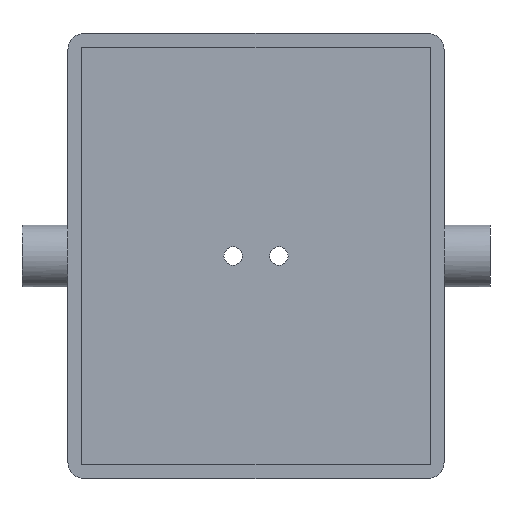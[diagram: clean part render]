
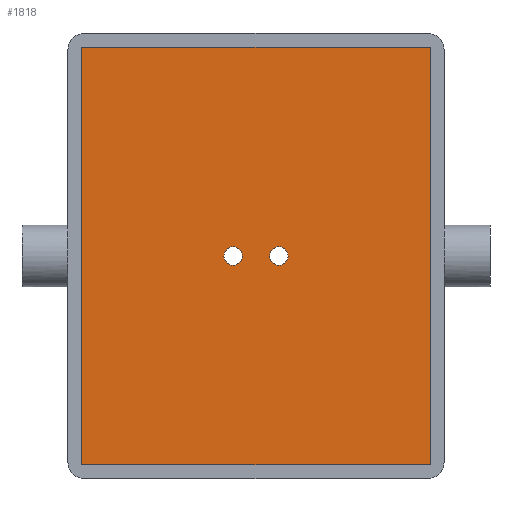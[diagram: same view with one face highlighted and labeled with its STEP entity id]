
A CAD part, top view. The second image highlights one B-rep face of the part: STEP entity #1818.
In plain terms, the highlighted planar face has unit normal (0, 0, 1).
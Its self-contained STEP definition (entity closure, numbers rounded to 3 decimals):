
#732 = PLANE('',#733);
#733 = AXIS2_PLACEMENT_3D('',#734,#735,#736);
#734 = CARTESIAN_POINT('',(-15.2,131.,13.7));
#735 = DIRECTION('',(-0.,1.,0.));
#736 = DIRECTION('',(0.,0.,1.));
#758 = PLANE('',#759);
#759 = AXIS2_PLACEMENT_3D('',#760,#761,#762);
#760 = CARTESIAN_POINT('',(-15.2,131.,13.7));
#761 = DIRECTION('',(1.,0.,-0.));
#762 = DIRECTION('',(0.,0.,1.));
#784 = PLANE('',#785);
#785 = AXIS2_PLACEMENT_3D('',#786,#787,#788);
#786 = CARTESIAN_POINT('',(-15.2,167.4,13.7));
#787 = DIRECTION('',(-0.,1.,0.));
#788 = DIRECTION('',(0.,0.,1.));
#808 = PLANE('',#809);
#809 = AXIS2_PLACEMENT_3D('',#810,#811,#812);
#810 = CARTESIAN_POINT('',(15.2,131.,13.7));
#811 = DIRECTION('',(1.,0.,-0.));
#812 = DIRECTION('',(0.,0.,1.));
#1085 = CYLINDRICAL_SURFACE('',#1086,0.8);
#1086 = AXIS2_PLACEMENT_3D('',#1087,#1088,#1089);
#1087 = CARTESIAN_POINT('',(-2.,149.2,12.5));
#1088 = DIRECTION('',(0.,0.,1.));
#1089 = DIRECTION('',(1.,0.,-0.));
#1116 = CYLINDRICAL_SURFACE('',#1117,0.8);
#1117 = AXIS2_PLACEMENT_3D('',#1118,#1119,#1120);
#1118 = CARTESIAN_POINT('',(2.,149.2,12.5));
#1119 = DIRECTION('',(0.,0.,1.));
#1120 = DIRECTION('',(1.,0.,-0.));
#1433 = VERTEX_POINT('',#1434);
#1434 = CARTESIAN_POINT('',(15.2,131.,13.7));
#1455 = EDGE_CURVE('',#1456,#1433,#1458,.T.);
#1456 = VERTEX_POINT('',#1457);
#1457 = CARTESIAN_POINT('',(-15.2,131.,13.7));
#1458 = SURFACE_CURVE('',#1459,(#1463,#1470),.PCURVE_S1.);
#1459 = LINE('',#1460,#1461);
#1460 = CARTESIAN_POINT('',(-15.2,131.,13.7));
#1461 = VECTOR('',#1462,1.);
#1462 = DIRECTION('',(1.,0.,-0.));
#1463 = PCURVE('',#732,#1464);
#1464 = DEFINITIONAL_REPRESENTATION('',(#1465),#1469);
#1465 = LINE('',#1466,#1467);
#1466 = CARTESIAN_POINT('',(0.,0.));
#1467 = VECTOR('',#1468,1.);
#1468 = DIRECTION('',(0.,1.));
#1469 = ( GEOMETRIC_REPRESENTATION_CONTEXT(2) 
PARAMETRIC_REPRESENTATION_CONTEXT() REPRESENTATION_CONTEXT('2D SPACE',''
  ) );
#1470 = PCURVE('',#1471,#1476);
#1471 = PLANE('',#1472);
#1472 = AXIS2_PLACEMENT_3D('',#1473,#1474,#1475);
#1473 = CARTESIAN_POINT('',(-15.2,131.,13.7));
#1474 = DIRECTION('',(0.,0.,1.));
#1475 = DIRECTION('',(1.,0.,-0.));
#1476 = DEFINITIONAL_REPRESENTATION('',(#1477),#1481);
#1477 = LINE('',#1478,#1479);
#1478 = CARTESIAN_POINT('',(0.,0.));
#1479 = VECTOR('',#1480,1.);
#1480 = DIRECTION('',(1.,0.));
#1481 = ( GEOMETRIC_REPRESENTATION_CONTEXT(2) 
PARAMETRIC_REPRESENTATION_CONTEXT() REPRESENTATION_CONTEXT('2D SPACE',''
  ) );
#1509 = EDGE_CURVE('',#1433,#1510,#1512,.T.);
#1510 = VERTEX_POINT('',#1511);
#1511 = CARTESIAN_POINT('',(15.2,167.4,13.7));
#1512 = SURFACE_CURVE('',#1513,(#1517,#1524),.PCURVE_S1.);
#1513 = LINE('',#1514,#1515);
#1514 = CARTESIAN_POINT('',(15.2,131.,13.7));
#1515 = VECTOR('',#1516,1.);
#1516 = DIRECTION('',(-0.,1.,0.));
#1517 = PCURVE('',#808,#1518);
#1518 = DEFINITIONAL_REPRESENTATION('',(#1519),#1523);
#1519 = LINE('',#1520,#1521);
#1520 = CARTESIAN_POINT('',(0.,0.));
#1521 = VECTOR('',#1522,1.);
#1522 = DIRECTION('',(0.,-1.));
#1523 = ( GEOMETRIC_REPRESENTATION_CONTEXT(2) 
PARAMETRIC_REPRESENTATION_CONTEXT() REPRESENTATION_CONTEXT('2D SPACE',''
  ) );
#1524 = PCURVE('',#1471,#1525);
#1525 = DEFINITIONAL_REPRESENTATION('',(#1526),#1530);
#1526 = LINE('',#1527,#1528);
#1527 = CARTESIAN_POINT('',(30.4,0.));
#1528 = VECTOR('',#1529,1.);
#1529 = DIRECTION('',(0.,1.));
#1530 = ( GEOMETRIC_REPRESENTATION_CONTEXT(2) 
PARAMETRIC_REPRESENTATION_CONTEXT() REPRESENTATION_CONTEXT('2D SPACE',''
  ) );
#1558 = EDGE_CURVE('',#1559,#1510,#1561,.T.);
#1559 = VERTEX_POINT('',#1560);
#1560 = CARTESIAN_POINT('',(-15.2,167.4,13.7));
#1561 = SURFACE_CURVE('',#1562,(#1566,#1573),.PCURVE_S1.);
#1562 = LINE('',#1563,#1564);
#1563 = CARTESIAN_POINT('',(-15.2,167.4,13.7));
#1564 = VECTOR('',#1565,1.);
#1565 = DIRECTION('',(1.,0.,-0.));
#1566 = PCURVE('',#784,#1567);
#1567 = DEFINITIONAL_REPRESENTATION('',(#1568),#1572);
#1568 = LINE('',#1569,#1570);
#1569 = CARTESIAN_POINT('',(0.,0.));
#1570 = VECTOR('',#1571,1.);
#1571 = DIRECTION('',(0.,1.));
#1572 = ( GEOMETRIC_REPRESENTATION_CONTEXT(2) 
PARAMETRIC_REPRESENTATION_CONTEXT() REPRESENTATION_CONTEXT('2D SPACE',''
  ) );
#1573 = PCURVE('',#1471,#1574);
#1574 = DEFINITIONAL_REPRESENTATION('',(#1575),#1579);
#1575 = LINE('',#1576,#1577);
#1576 = CARTESIAN_POINT('',(0.,36.4));
#1577 = VECTOR('',#1578,1.);
#1578 = DIRECTION('',(1.,0.));
#1579 = ( GEOMETRIC_REPRESENTATION_CONTEXT(2) 
PARAMETRIC_REPRESENTATION_CONTEXT() REPRESENTATION_CONTEXT('2D SPACE',''
  ) );
#1607 = EDGE_CURVE('',#1456,#1559,#1608,.T.);
#1608 = SURFACE_CURVE('',#1609,(#1613,#1620),.PCURVE_S1.);
#1609 = LINE('',#1610,#1611);
#1610 = CARTESIAN_POINT('',(-15.2,131.,13.7));
#1611 = VECTOR('',#1612,1.);
#1612 = DIRECTION('',(-0.,1.,0.));
#1613 = PCURVE('',#758,#1614);
#1614 = DEFINITIONAL_REPRESENTATION('',(#1615),#1619);
#1615 = LINE('',#1616,#1617);
#1616 = CARTESIAN_POINT('',(0.,0.));
#1617 = VECTOR('',#1618,1.);
#1618 = DIRECTION('',(0.,-1.));
#1619 = ( GEOMETRIC_REPRESENTATION_CONTEXT(2) 
PARAMETRIC_REPRESENTATION_CONTEXT() REPRESENTATION_CONTEXT('2D SPACE',''
  ) );
#1620 = PCURVE('',#1471,#1621);
#1621 = DEFINITIONAL_REPRESENTATION('',(#1622),#1626);
#1622 = LINE('',#1623,#1624);
#1623 = CARTESIAN_POINT('',(0.,0.));
#1624 = VECTOR('',#1625,1.);
#1625 = DIRECTION('',(0.,1.));
#1626 = ( GEOMETRIC_REPRESENTATION_CONTEXT(2) 
PARAMETRIC_REPRESENTATION_CONTEXT() REPRESENTATION_CONTEXT('2D SPACE',''
  ) );
#1659 = EDGE_CURVE('',#1660,#1660,#1662,.T.);
#1660 = VERTEX_POINT('',#1661);
#1661 = CARTESIAN_POINT('',(-1.2,149.2,13.7));
#1662 = SURFACE_CURVE('',#1663,(#1668,#1675),.PCURVE_S1.);
#1663 = CIRCLE('',#1664,0.8);
#1664 = AXIS2_PLACEMENT_3D('',#1665,#1666,#1667);
#1665 = CARTESIAN_POINT('',(-2.,149.2,13.7));
#1666 = DIRECTION('',(0.,0.,1.));
#1667 = DIRECTION('',(1.,0.,-0.));
#1668 = PCURVE('',#1085,#1669);
#1669 = DEFINITIONAL_REPRESENTATION('',(#1670),#1674);
#1670 = LINE('',#1671,#1672);
#1671 = CARTESIAN_POINT('',(0.,1.2));
#1672 = VECTOR('',#1673,1.);
#1673 = DIRECTION('',(1.,0.));
#1674 = ( GEOMETRIC_REPRESENTATION_CONTEXT(2) 
PARAMETRIC_REPRESENTATION_CONTEXT() REPRESENTATION_CONTEXT('2D SPACE',''
  ) );
#1675 = PCURVE('',#1471,#1676);
#1676 = DEFINITIONAL_REPRESENTATION('',(#1677),#1681);
#1677 = CIRCLE('',#1678,0.8);
#1678 = AXIS2_PLACEMENT_2D('',#1679,#1680);
#1679 = CARTESIAN_POINT('',(13.2,18.2));
#1680 = DIRECTION('',(1.,0.));
#1681 = ( GEOMETRIC_REPRESENTATION_CONTEXT(2) 
PARAMETRIC_REPRESENTATION_CONTEXT() REPRESENTATION_CONTEXT('2D SPACE',''
  ) );
#1709 = EDGE_CURVE('',#1710,#1710,#1712,.T.);
#1710 = VERTEX_POINT('',#1711);
#1711 = CARTESIAN_POINT('',(2.8,149.2,13.7));
#1712 = SURFACE_CURVE('',#1713,(#1718,#1725),.PCURVE_S1.);
#1713 = CIRCLE('',#1714,0.8);
#1714 = AXIS2_PLACEMENT_3D('',#1715,#1716,#1717);
#1715 = CARTESIAN_POINT('',(2.,149.2,13.7));
#1716 = DIRECTION('',(0.,0.,1.));
#1717 = DIRECTION('',(1.,0.,-0.));
#1718 = PCURVE('',#1116,#1719);
#1719 = DEFINITIONAL_REPRESENTATION('',(#1720),#1724);
#1720 = LINE('',#1721,#1722);
#1721 = CARTESIAN_POINT('',(0.,1.2));
#1722 = VECTOR('',#1723,1.);
#1723 = DIRECTION('',(1.,0.));
#1724 = ( GEOMETRIC_REPRESENTATION_CONTEXT(2) 
PARAMETRIC_REPRESENTATION_CONTEXT() REPRESENTATION_CONTEXT('2D SPACE',''
  ) );
#1725 = PCURVE('',#1471,#1726);
#1726 = DEFINITIONAL_REPRESENTATION('',(#1727),#1731);
#1727 = CIRCLE('',#1728,0.8);
#1728 = AXIS2_PLACEMENT_2D('',#1729,#1730);
#1729 = CARTESIAN_POINT('',(17.2,18.2));
#1730 = DIRECTION('',(1.,0.));
#1731 = ( GEOMETRIC_REPRESENTATION_CONTEXT(2) 
PARAMETRIC_REPRESENTATION_CONTEXT() REPRESENTATION_CONTEXT('2D SPACE',''
  ) );
#1818 = ADVANCED_FACE('',(#1819,#1825,#1828),#1471,.T.);
#1819 = FACE_BOUND('',#1820,.T.);
#1820 = EDGE_LOOP('',(#1821,#1822,#1823,#1824));
#1821 = ORIENTED_EDGE('',*,*,#1607,.F.);
#1822 = ORIENTED_EDGE('',*,*,#1455,.T.);
#1823 = ORIENTED_EDGE('',*,*,#1509,.T.);
#1824 = ORIENTED_EDGE('',*,*,#1558,.F.);
#1825 = FACE_BOUND('',#1826,.T.);
#1826 = EDGE_LOOP('',(#1827));
#1827 = ORIENTED_EDGE('',*,*,#1659,.F.);
#1828 = FACE_BOUND('',#1829,.T.);
#1829 = EDGE_LOOP('',(#1830));
#1830 = ORIENTED_EDGE('',*,*,#1709,.F.);
